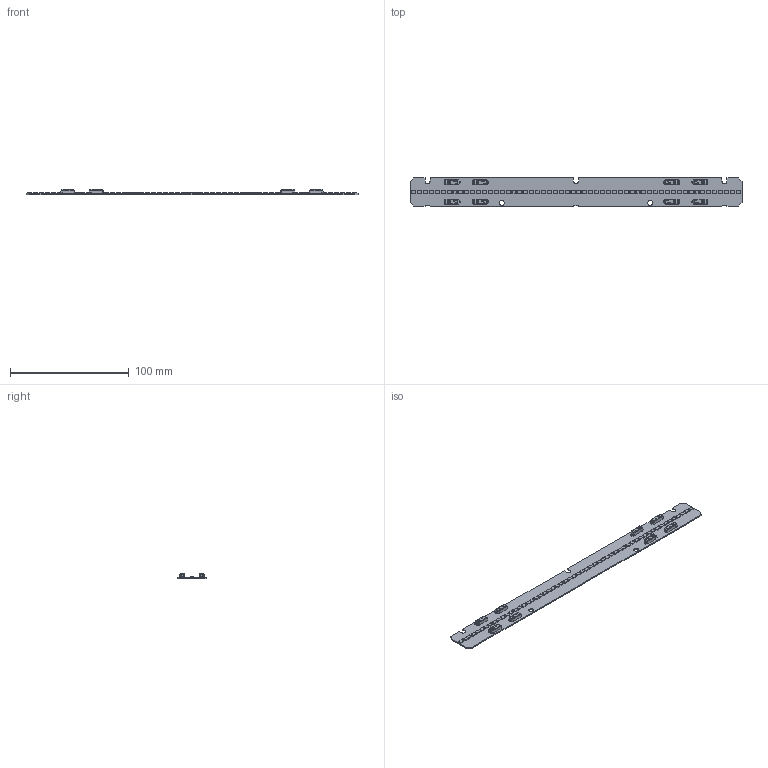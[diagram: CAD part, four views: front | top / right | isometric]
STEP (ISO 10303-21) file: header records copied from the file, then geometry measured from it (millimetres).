
FILE_DESCRIPTION(/* description */ ('Unknown'),/* implementation_level */ '2;1');
FILE_NAME(/* name */ 'LinLED 280x24mm 2x1000lm 2x4C 42V sh-000 2023-05-18',/* time_stamp */ '2023-05-18T15:53:31+02:00',/* author */ ('Unknown'),/* organization */ ('Unknown'),/* preprocessor_version */ 'ST-DEVELOPER v18.102',/* originating_system */ 'Solid Edge',/* authorisation */ 'Unknown');
FILE_SCHEMA (('AUTOMOTIVE_DESIGN {1 0 10303 214 3 1 1}'));
Products named in the file (1): LinLED 280x24mm 2x1000lm 2x4C 42V sh-000 2023-05-18
Bounding box: 279.6 x 24 x 4.45 mm (x, y, z)
Volume: 7905.9 mm3; surface area: 15968.5 mm2
Topology: 1 solids, 1 shells, 2824 faces, 7308 edges, 4598 vertices
Faces by surface type: plane 1665, cylinder 535, torus 256, cone 200, bspline 104, sphere 64
Full cylindrical faces by diameter (mm): 4.3 x2
Entity records: 108837 total; most frequent: CARTESIAN_POINT 23629, ORIENTED_EDGE 14416, DIRECTION 11976, EDGE_CURVE 7208, LINE 4746, VECTOR 4746, VERTEX_POINT 4572, AXIS2_PLACEMENT_3D 3615
